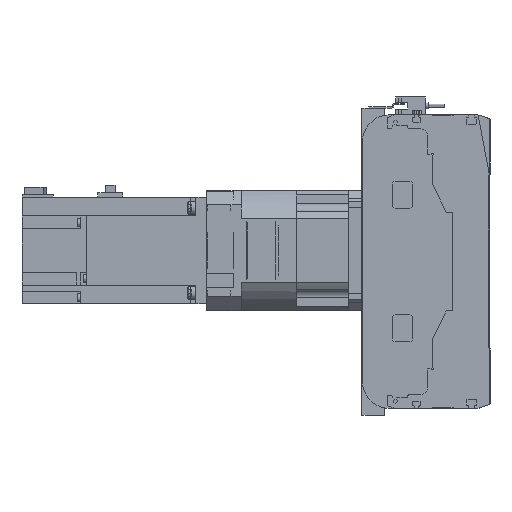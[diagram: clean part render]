
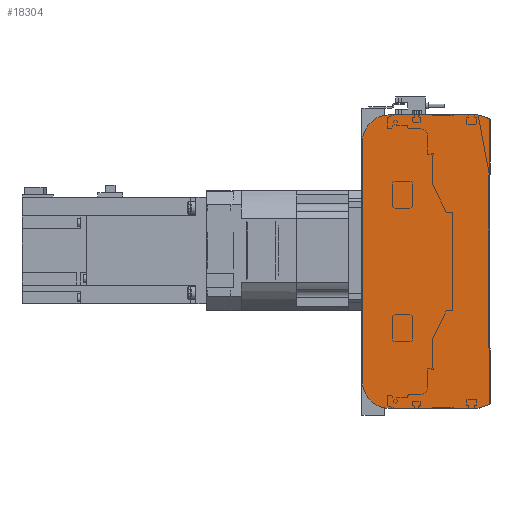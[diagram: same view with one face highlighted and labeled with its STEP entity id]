
A CAD part, left-side view. The second image highlights one B-rep face of the part: STEP entity #18304.
In plain terms, the highlighted planar face has unit normal (-1, 0, 0).
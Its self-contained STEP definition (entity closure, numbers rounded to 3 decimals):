
#1042=CIRCLE('',#19953,20.);
#1043=CIRCLE('',#19956,20.);
#4582=ORIENTED_EDGE('',*,*,#7944,.F.);
#4583=ORIENTED_EDGE('',*,*,#7986,.F.);
#4584=ORIENTED_EDGE('',*,*,#7984,.F.);
#4585=ORIENTED_EDGE('',*,*,#7982,.F.);
#4586=ORIENTED_EDGE('',*,*,#7971,.F.);
#4587=ORIENTED_EDGE('',*,*,#7962,.F.);
#4588=ORIENTED_EDGE('',*,*,#7958,.F.);
#4589=ORIENTED_EDGE('',*,*,#7955,.F.);
#7944=EDGE_CURVE('',#9969,#9970,#11611,.T.);
#7955=EDGE_CURVE('',#9970,#9977,#11622,.T.);
#7958=EDGE_CURVE('',#9977,#9979,#11625,.T.);
#7962=EDGE_CURVE('',#9979,#9980,#11629,.T.);
#7971=EDGE_CURVE('',#9980,#9986,#11638,.T.);
#7982=EDGE_CURVE('',#9986,#9993,#1042,.T.);
#7984=EDGE_CURVE('',#9993,#9994,#11650,.T.);
#7986=EDGE_CURVE('',#9994,#9969,#1043,.T.);
#9969=VERTEX_POINT('',#30211);
#9970=VERTEX_POINT('',#30213);
#9977=VERTEX_POINT('',#30232);
#9979=VERTEX_POINT('',#30238);
#9980=VERTEX_POINT('',#30244);
#9986=VERTEX_POINT('',#30260);
#9993=VERTEX_POINT('',#30279);
#9994=VERTEX_POINT('',#30283);
#11611=LINE('',#30212,#13188);
#11622=LINE('',#30231,#13199);
#11625=LINE('',#30237,#13202);
#11629=LINE('',#30243,#13206);
#11638=LINE('',#30259,#13215);
#11650=LINE('',#30282,#13227);
#13188=VECTOR('',#24184,1000.);
#13199=VECTOR('',#24197,1000.);
#13202=VECTOR('',#24202,1000.);
#13206=VECTOR('',#24208,1000.);
#13215=VECTOR('',#24219,1000.);
#13227=VECTOR('',#24237,1000.);
#14612=EDGE_LOOP('',(#4582,#4583,#4584,#4585,#4586,#4587,#4588,#4589));
#16294=FACE_BOUND('',#14612,.T.);
#17415=PLANE('',#19957);
#18304=ADVANCED_FACE('',(#16294),#17415,.F.);
#19953=AXIS2_PLACEMENT_3D('',#30278,#24232,#24233);
#19956=AXIS2_PLACEMENT_3D('',#30286,#24241,#24242);
#19957=AXIS2_PLACEMENT_3D('',#30287,#24243,#24244);
#24184=DIRECTION('',(0.,-1.,0.));
#24197=DIRECTION('',(0.,-0.945,-0.328));
#24202=DIRECTION('',(0.,0.,-1.));
#24208=DIRECTION('',(0.,0.945,-0.328));
#24219=DIRECTION('',(0.,1.,0.));
#24232=DIRECTION('',(1.,0.,0.));
#24233=DIRECTION('',(0.,0.,-1.));
#24237=DIRECTION('',(0.,0.,1.));
#24241=DIRECTION('',(1.,0.,0.));
#24242=DIRECTION('',(0.,0.,-1.));
#24243=DIRECTION('',(1.,0.,0.));
#24244=DIRECTION('',(0.,0.,-1.));
#30211=CARTESIAN_POINT('',(0.,75.5,110.));
#30212=CARTESIAN_POINT('',(0.,75.5,110.));
#30213=CARTESIAN_POINT('',(0.,9.,110.));
#30231=CARTESIAN_POINT('',(0.,9.,110.));
#30232=CARTESIAN_POINT('',(0.,0.5,107.05));
#30237=CARTESIAN_POINT('',(0.,0.5,107.05));
#30238=CARTESIAN_POINT('',(0.,0.5,-107.05));
#30243=CARTESIAN_POINT('',(0.,0.5,-107.05));
#30244=CARTESIAN_POINT('',(0.,9.,-110.));
#30259=CARTESIAN_POINT('',(0.,9.,-110.));
#30260=CARTESIAN_POINT('',(0.,75.5,-110.));
#30278=CARTESIAN_POINT('',(0.,75.5,-90.));
#30279=CARTESIAN_POINT('',(0.,95.5,-90.));
#30282=CARTESIAN_POINT('',(0.,95.5,-90.));
#30283=CARTESIAN_POINT('',(0.,95.5,90.));
#30286=CARTESIAN_POINT('',(0.,75.5,90.));
#30287=CARTESIAN_POINT('',(0.,75.5,-90.));
